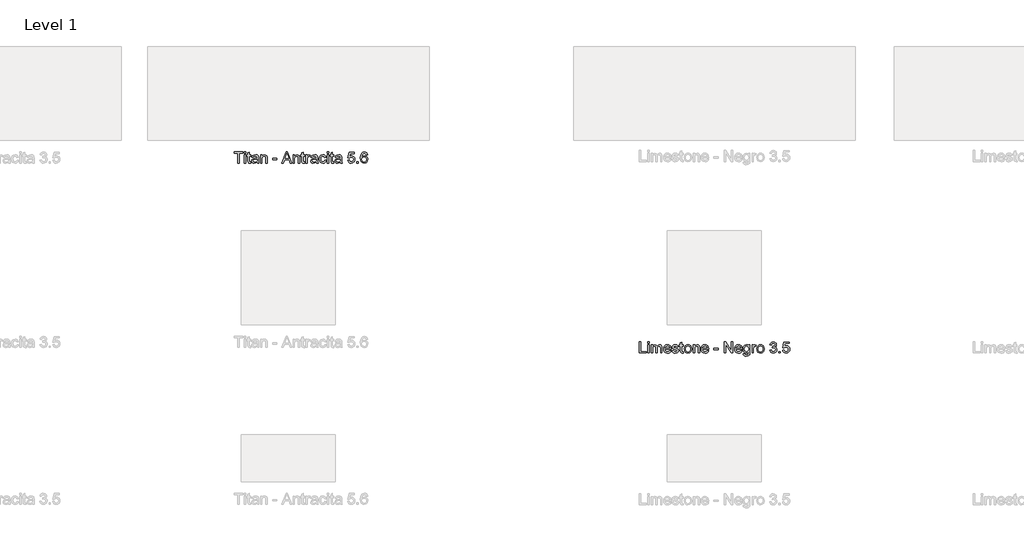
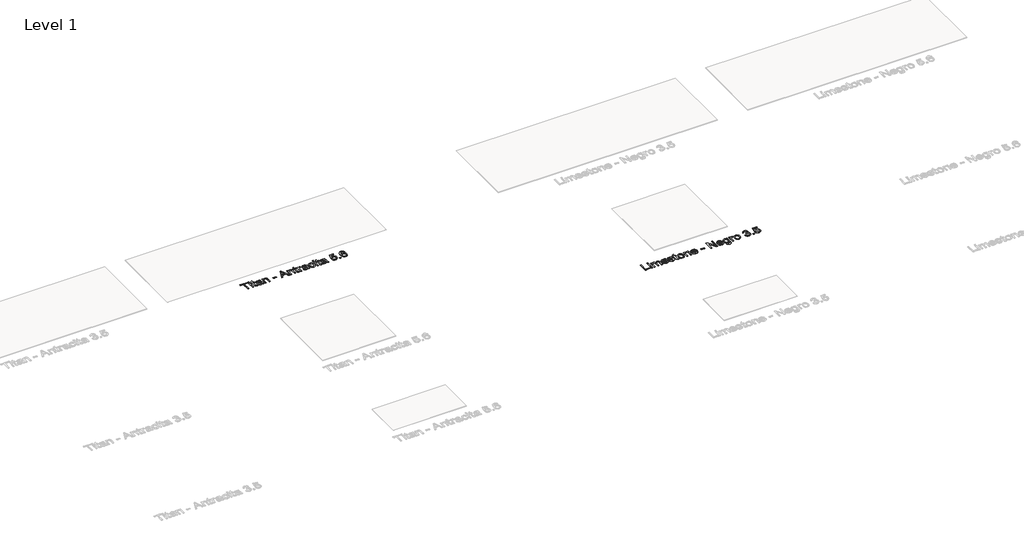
# One storey, part 10 of 80: 2 proxies.
"""IFC4 building model written with IfcOpenShell, lengths in millimetres."""

from ifc_helpers import new_model, si_unit, origin, origin_with_axes, place, context, project, spatial, polyline, outline, extrude, element, save

model = new_model("IFC4")

# Units and contexts
model_context = context("Model", 3, world=origin())
ifc_project = project(units=[si_unit("LENGTHUNIT", "METRE", prefix="MILLI")], contexts=[model_context])

# Site, building, storey
site = spatial("IfcSite", under=ifc_project)
building = spatial("IfcBuilding", under=site)
storey = spatial("IfcBuildingStorey", under=building, Name="Level 1", Elevation=0.0)

# Proxies
placement = place(None, origin())
element("IfcBuildingElementProxy", 1, Name="24\" Arial", ObjectType="24\" Arial", at=placement, inside=storey, context=model_context, shape_type="SweptSolid", body=[
    extrude(outline(polyline([(-7662.7684156, -16671.3584739), (-7662.7684156, -16567.9738585), (-7701.5376464, -16567.9738585), (-7701.5376464, -16553.2046277), (-7609.2299541, -16553.2046277), (-7609.2299541, -16567.9738585), (-7647.9991848, -16567.9738585), (-7647.9991848, -16671.3584739), (-7662.7684156, -16671.3584739)])), origin_with_axes(), (0.0, 0.0, 1.0), 2.0),
    extrude(outline(polyline([(-7594.4607233, -16671.3584739), (-7594.4607233, -16584.5892431), (-7579.6914925, -16584.5892431), (-7579.6914925, -16671.3584739), (-7594.4607233, -16671.3584739)])), origin_with_axes(), (0.0, 0.0, 1.0), 2.0),
    extrude(outline(polyline([(-7594.4607233, -16567.9738585), (-7594.4607233, -16553.2046277), (-7579.6914925, -16553.2046277), (-7579.6914925, -16567.9738585), (-7594.4607233, -16567.9738585)])), origin_with_axes(), (0.0, 0.0, 1.0), 2.0),
    extrude(outline(polyline([(-7526.153031, -16659.0411662), (-7524.3068771, -16671.7911662), (-7535.3549541, -16673.2046277), (-7547.7299541, -16670.7527046), (-7553.903031, -16664.3200123), (-7555.6914925, -16647.560397), (-7555.6914925, -16599.3584739), (-7566.7684156, -16599.3584739), (-7566.7684156, -16584.5892431), (-7555.6914925, -16584.5892431), (-7555.6914925, -16563.5027046), (-7540.9222617, -16554.8200123), (-7540.9222617, -16584.5892431), (-7526.153031, -16584.5892431), (-7526.153031, -16599.3584739), (-7540.9222617, -16599.3584739), (-7540.9222617, -16647.1277046), (-7540.1434156, -16654.7430893), (-7537.6193771, -16657.4402046), (-7532.5857233, -16658.435397), (-7526.153031, -16659.0411662)])), origin_with_axes(), (0.0, 0.0, 1.0), 2.0),
    extrude(outline(polyline([(-7455.9991848, -16660.2815508), (-7470.3213002, -16670.2911662), (-7486.1434156, -16673.2046277), (-7498.4859637, -16671.4522239), (-7507.590531, -16666.1950123), (-7513.2047137, -16658.2118393), (-7515.0761079, -16648.2815508), (-7512.2491848, -16636.5988585), (-7504.8213002, -16628.1180893), (-7494.4799541, -16623.2719354), (-7481.7011079, -16621.0507816), (-7456.0857233, -16615.9738585), (-7455.9991848, -16612.685397), (-7460.0664925, -16601.7815508), (-7476.3934156, -16597.51232), (-7491.3357233, -16600.3536662), (-7498.4607233, -16610.435397), (-7513.2299541, -16608.5892431), (-7506.840531, -16594.1661662), (-7493.9751464, -16585.7142431), (-7474.4895694, -16582.7430893), (-7456.590531, -16585.3680893), (-7446.4799541, -16591.9594354), (-7441.9511079, -16601.9834739), (-7441.2299541, -16614.9065508), (-7441.2299541, -16633.2815508), (-7440.4799541, -16658.9402046), (-7437.5376464, -16671.3584739), (-7452.3068771, -16671.3584739), (-7455.9991848, -16660.2815508)]), holes=[polyline([(-7455.9991848, -16630.7430893), (-7479.8261079, -16635.2719354), (-7492.5328387, -16637.6661662), (-7498.2876464, -16641.560397), (-7500.3068771, -16647.2430893), (-7495.9078387, -16655.2334739), (-7482.9991848, -16658.435397), (-7468.0568771, -16654.9017431), (-7458.4222617, -16646.3488585), (-7456.0857233, -16634.9257816), (-7455.9991848, -16630.7430893)])]), origin_with_axes(), (0.0, 0.0, 1.0), 2.0),
    extrude(outline(polyline([(-7420.9222617, -16671.3584739), (-7420.9222617, -16584.5892431), (-7406.153031, -16584.5892431), (-7406.153031, -16596.7046277), (-7394.8597617, -16586.2334739), (-7379.4414925, -16582.7430893), (-7365.4943771, -16585.5555893), (-7355.9751464, -16592.9402046), (-7351.5472617, -16603.8007816), (-7350.7684156, -16618.0796277), (-7350.7684156, -16671.3584739), (-7365.5376464, -16671.3584739), (-7365.5376464, -16620.0700123), (-7367.2395694, -16607.0027046), (-7373.2539925, -16600.0940508), (-7383.3934156, -16597.51232), (-7399.4174541, -16603.310397), (-7404.4691367, -16611.7118393), (-7406.153031, -16625.3200123), (-7406.153031, -16671.3584739), (-7420.9222617, -16671.3584739)])), origin_with_axes(), (0.0, 0.0, 1.0), 2.0),
    extrude(outline(polyline([(-7291.6914925, -16636.2815508), (-7291.6914925, -16621.51232), (-7245.5376464, -16621.51232), (-7245.5376464, -16636.2815508), (-7291.6914925, -16636.2815508)])), origin_with_axes(), (0.0, 0.0, 1.0), 2.0),
    extrude(outline(polyline([(-7194.6818771, -16671.3584739), (-7147.5184156, -16553.2046277), (-7134.9414925, -16553.2046277), (-7087.778031, -16671.3584739), (-7103.3838002, -16671.3584739), (-7116.9126464, -16634.435397), (-7165.5761079, -16634.435397), (-7179.0761079, -16671.3584739), (-7194.6818771, -16671.3584739)]), holes=[polyline([(-7160.153031, -16619.6661662), (-7122.3068771, -16619.6661662), (-7132.9511079, -16590.6180893), (-7141.2299541, -16567.9738585), (-7148.5857233, -16588.0796277), (-7160.153031, -16619.6661662)])]), origin_with_axes(), (0.0, 0.0, 1.0), 2.0),
    extrude(outline(polyline([(-7073.8453387, -16671.3584739), (-7073.8453387, -16584.5892431), (-7059.0761079, -16584.5892431), (-7059.0761079, -16596.7046277), (-7047.7828387, -16586.2334739), (-7032.3645694, -16582.7430893), (-7018.4174541, -16585.5555893), (-7008.8982233, -16592.9402046), (-7004.4703387, -16603.8007816), (-7003.6914925, -16618.0796277), (-7003.6914925, -16671.3584739), (-7018.4607233, -16671.3584739), (-7018.4607233, -16620.0700123), (-7020.1626464, -16607.0027046), (-7026.1770694, -16600.0940508), (-7036.3164925, -16597.51232), (-7052.340531, -16603.310397), (-7057.3922137, -16611.7118393), (-7059.0761079, -16625.3200123), (-7059.0761079, -16671.3584739), (-7073.8453387, -16671.3584739)])), origin_with_axes(), (0.0, 0.0, 1.0), 2.0),
    extrude(outline(polyline([(-6951.9991848, -16659.0411662), (-6950.153031, -16671.7911662), (-6961.2011079, -16673.2046277), (-6973.5761079, -16670.7527046), (-6979.7491848, -16664.3200123), (-6981.5376464, -16647.560397), (-6981.5376464, -16599.3584739), (-6992.6145694, -16599.3584739), (-6992.6145694, -16584.5892431), (-6981.5376464, -16584.5892431), (-6981.5376464, -16563.5027046), (-6966.7684156, -16554.8200123), (-6966.7684156, -16584.5892431), (-6951.9991848, -16584.5892431), (-6951.9991848, -16599.3584739), (-6966.7684156, -16599.3584739), (-6966.7684156, -16647.1277046), (-6965.9895694, -16654.7430893), (-6963.465531, -16657.4402046), (-6958.4318771, -16658.435397), (-6951.9991848, -16659.0411662)])), origin_with_axes(), (0.0, 0.0, 1.0), 2.0),
    extrude(outline(polyline([(-6937.2299541, -16671.3584739), (-6937.2299541, -16584.5892431), (-6924.3068771, -16584.5892431), (-6924.3068771, -16597.4257816), (-6915.1338002, -16585.5988585), (-6905.903031, -16582.7430893), (-6891.0761079, -16587.3007816), (-6896.0088002, -16600.5411662), (-6906.3934156, -16597.51232), (-6914.7443771, -16600.4257816), (-6920.0664925, -16608.5027046), (-6922.4607233, -16625.7527046), (-6922.4607233, -16671.3584739), (-6937.2299541, -16671.3584739)])), origin_with_axes(), (0.0, 0.0, 1.0), 2.0),
    extrude(outline(polyline([(-6826.4607233, -16660.2815508), (-6840.7828387, -16670.2911662), (-6856.6049541, -16673.2046277), (-6868.9475021, -16671.4522239), (-6878.0520694, -16666.1950123), (-6883.6662521, -16658.2118393), (-6885.5376464, -16648.2815508), (-6882.7107233, -16636.5988585), (-6875.2828387, -16628.1180893), (-6864.9414925, -16623.2719354), (-6852.1626464, -16621.0507816), (-6826.5472617, -16615.9738585), (-6826.4607233, -16612.685397), (-6830.528031, -16601.7815508), (-6846.8549541, -16597.51232), (-6861.7972617, -16600.3536662), (-6868.9222617, -16610.435397), (-6883.6914925, -16608.5892431), (-6877.3020694, -16594.1661662), (-6864.4366848, -16585.7142431), (-6844.9511079, -16582.7430893), (-6827.0520694, -16585.3680893), (-6816.9414925, -16591.9594354), (-6812.4126464, -16601.9834739), (-6811.6914925, -16614.9065508), (-6811.6914925, -16633.2815508), (-6810.9414925, -16658.9402046), (-6807.9991848, -16671.3584739), (-6822.7684156, -16671.3584739), (-6826.4607233, -16660.2815508)]), holes=[polyline([(-6826.4607233, -16630.7430893), (-6850.2876464, -16635.2719354), (-6862.9943771, -16637.6661662), (-6868.7491848, -16641.560397), (-6870.7684156, -16647.2430893), (-6866.3693771, -16655.2334739), (-6853.4607233, -16658.435397), (-6838.5184156, -16654.9017431), (-6828.8838002, -16646.3488585), (-6826.5472617, -16634.9257816), (-6826.4607233, -16630.7430893)])]), origin_with_axes(), (0.0, 0.0, 1.0), 2.0),
    extrude(outline(polyline([(-6735.9991848, -16639.9738585), (-6721.2299541, -16641.8200123), (-6725.3477425, -16654.9558296), (-6733.0857233, -16664.8825123), (-6743.715531, -16671.1240989), (-6756.5088002, -16673.2046277), (-6772.2191367, -16670.3019835), (-6784.5039925, -16661.5940508), (-6792.4330791, -16647.4630412), (-6795.0761079, -16628.2911662), (-6790.5616848, -16603.7575123), (-6784.8645694, -16594.559195), (-6776.8020694, -16587.9930893), (-6756.7107233, -16582.7430893), (-6744.231156, -16584.5459739), (-6734.2539925, -16589.9546277), (-6727.0965406, -16598.6805893), (-6723.0761079, -16610.435397), (-6737.8453387, -16612.2815508), (-6744.6963002, -16601.2190508), (-6756.5953387, -16597.51232), (-6766.1398098, -16599.3368393), (-6773.715531, -16604.810397), (-6778.6590406, -16614.2286662), (-6780.3068771, -16627.88732), (-6778.6950983, -16641.7298681), (-6773.8597617, -16651.1805893), (-6766.4210598, -16656.621695), (-6756.9991848, -16658.435397), (-6743.0809156, -16653.9065508), (-6735.9991848, -16639.9738585)])), origin_with_axes(), (0.0, 0.0, 1.0), 2.0),
    extrude(outline(polyline([(-6708.3068771, -16671.3584739), (-6708.3068771, -16584.5892431), (-6693.5376464, -16584.5892431), (-6693.5376464, -16671.3584739), (-6708.3068771, -16671.3584739)])), origin_with_axes(), (0.0, 0.0, 1.0), 2.0),
    extrude(outline(polyline([(-6708.3068771, -16567.9738585), (-6708.3068771, -16553.2046277), (-6693.5376464, -16553.2046277), (-6693.5376464, -16567.9738585), (-6708.3068771, -16567.9738585)])), origin_with_axes(), (0.0, 0.0, 1.0), 2.0),
    extrude(outline(polyline([(-6639.9991848, -16659.0411662), (-6638.153031, -16671.7911662), (-6649.2011079, -16673.2046277), (-6661.5761079, -16670.7527046), (-6667.7491848, -16664.3200123), (-6669.5376464, -16647.560397), (-6669.5376464, -16599.3584739), (-6680.6145694, -16599.3584739), (-6680.6145694, -16584.5892431), (-6669.5376464, -16584.5892431), (-6669.5376464, -16563.5027046), (-6654.7684156, -16554.8200123), (-6654.7684156, -16584.5892431), (-6639.9991848, -16584.5892431), (-6639.9991848, -16599.3584739), (-6654.7684156, -16599.3584739), (-6654.7684156, -16647.1277046), (-6653.9895694, -16654.7430893), (-6651.465531, -16657.4402046), (-6646.4318771, -16658.435397), (-6639.9991848, -16659.0411662)])), origin_with_axes(), (0.0, 0.0, 1.0), 2.0),
    extrude(outline(polyline([(-6569.8453387, -16660.2815508), (-6584.1674541, -16670.2911662), (-6599.9895694, -16673.2046277), (-6612.3321175, -16671.4522239), (-6621.4366848, -16666.1950123), (-6627.0508675, -16658.2118393), (-6628.9222617, -16648.2815508), (-6626.0953387, -16636.5988585), (-6618.6674541, -16628.1180893), (-6608.3261079, -16623.2719354), (-6595.5472617, -16621.0507816), (-6569.9318771, -16615.9738585), (-6569.8453387, -16612.685397), (-6573.9126464, -16601.7815508), (-6590.2395694, -16597.51232), (-6605.1818771, -16600.3536662), (-6612.3068771, -16610.435397), (-6627.0761079, -16608.5892431), (-6620.6866848, -16594.1661662), (-6607.8213002, -16585.7142431), (-6588.3357233, -16582.7430893), (-6570.4366848, -16585.3680893), (-6560.3261079, -16591.9594354), (-6555.7972617, -16601.9834739), (-6555.0761079, -16614.9065508), (-6555.0761079, -16633.2815508), (-6554.3261079, -16658.9402046), (-6551.3838002, -16671.3584739), (-6566.153031, -16671.3584739), (-6569.8453387, -16660.2815508)]), holes=[polyline([(-6569.8453387, -16630.7430893), (-6593.6722617, -16635.2719354), (-6606.3789925, -16637.6661662), (-6612.1338002, -16641.560397), (-6614.153031, -16647.2430893), (-6609.7539925, -16655.2334739), (-6596.8453387, -16658.435397), (-6581.903031, -16654.9017431), (-6572.2684156, -16646.3488585), (-6569.9318771, -16634.9257816), (-6569.8453387, -16630.7430893)])]), origin_with_axes(), (0.0, 0.0, 1.0), 2.0),
    extrude(outline(polyline([(-6492.3068771, -16639.9738585), (-6477.5376464, -16638.1277046), (-6470.0953387, -16653.3440508), (-6454.6626464, -16658.435397), (-6444.0761079, -16656.6649643), (-6436.1434156, -16651.3536662), (-6431.1890887, -16643.1144835), (-6429.5376464, -16632.560397), (-6431.0845214, -16622.622897), (-6435.7251464, -16615.0219354), (-6443.4955791, -16610.1974162), (-6454.4318771, -16608.5892431), (-6467.3982233, -16611.1565508), (-6475.6914925, -16617.8200123), (-6490.4607233, -16615.9738585), (-6477.5376464, -16555.0507816), (-6420.3068771, -16555.0507816), (-6420.3068771, -16569.8200123), (-6465.5953387, -16569.8200123), (-6471.9126464, -16602.3584739), (-6461.3621656, -16595.9546277), (-6450.3068771, -16593.8200123), (-6436.5075983, -16596.466647), (-6425.0520694, -16604.4065508), (-6417.3393291, -16616.5075123), (-6414.7684156, -16631.63732), (-6417.0833194, -16646.4065508), (-6424.028031, -16659.0411662), (-6437.3261079, -16669.6637623), (-6454.7203387, -16673.2046277), (-6469.2263483, -16670.9293873), (-6480.7828387, -16664.1036662), (-6488.7047137, -16653.5207335), (-6492.3068771, -16639.9738585)])), origin_with_axes(), (0.0, 0.0, 1.0), 2.0),
    extrude(outline(polyline([(-6394.4607233, -16671.3584739), (-6394.4607233, -16656.5892431), (-6379.6914925, -16656.5892431), (-6379.6914925, -16671.3584739), (-6394.4607233, -16671.3584739)])), origin_with_axes(), (0.0, 0.0, 1.0), 2.0),
    extrude(outline(polyline([(-6279.9991848, -16584.5892431), (-6294.7684156, -16586.435397), (-6300.3645694, -16574.1180893), (-6307.0640887, -16569.5099162), (-6315.1626464, -16567.9738585), (-6328.4895694, -16571.5507816), (-6338.5713002, -16584.9786662), (-6342.7684156, -16611.3007816), (-6329.7443771, -16599.5171277), (-6313.6049541, -16595.6661662), (-6299.9607233, -16598.2983777), (-6288.5088002, -16606.1950123), (-6280.7419733, -16618.2599162), (-6278.153031, -16633.3969354), (-6283.028031, -16653.7767431), (-6296.4414925, -16668.19982), (-6315.7972617, -16673.2046277), (-6332.5532714, -16669.88732), (-6345.8982233, -16659.935397), (-6354.6277906, -16642.3680893), (-6357.5376464, -16616.2046277), (-6354.3068771, -16586.7887623), (-6344.6145694, -16566.6757816), (-6331.3813964, -16556.5724162), (-6314.2395694, -16553.2046277), (-6301.2804348, -16555.2887623), (-6290.903031, -16561.5411662), (-6283.6338002, -16571.4714546), (-6279.9991848, -16584.5892431)]), holes=[polyline([(-6342.7684156, -16633.1661662), (-6339.3501464, -16645.9594354), (-6330.2636079, -16655.247897), (-6316.9511079, -16658.435397), (-6307.2047137, -16656.7839546), (-6299.5424541, -16651.8296277), (-6294.5773098, -16644.0411662), (-6292.9222617, -16633.88732), (-6294.5556752, -16624.1409258), (-6299.4559156, -16616.7094354), (-6307.2479829, -16612.0039066), (-6317.5568771, -16610.435397), (-6327.2888483, -16612.0039066), (-6335.4270694, -16616.7094354), (-6340.9330791, -16623.9606373), (-6342.7684156, -16633.1661662)])]), origin_with_axes(), (0.0, 0.0, 1.0), 2.0),
])
element("IfcBuildingElementProxy", 2, Name="24\" Arial", ObjectType="24\" Arial", at=placement, inside=storey, context=model_context, shape_type="SweptSolid", body=[
    extrude(outline(polyline([(-3383.0761079, -18695.513613), (-3383.0761079, -18577.3597669), (-3368.3068771, -18577.3597669), (-3368.3068771, -18680.7443823), (-3309.2299541, -18680.7443823), (-3309.2299541, -18695.513613), (-3383.0761079, -18695.513613)])), origin_with_axes(), (0.0, 0.0, 1.0), 2.0),
    extrude(outline(polyline([(-3294.4607233, -18592.1289977), (-3294.4607233, -18577.3597669), (-3279.6914925, -18577.3597669), (-3279.6914925, -18592.1289977), (-3294.4607233, -18592.1289977)])), origin_with_axes(), (0.0, 0.0, 1.0), 2.0),
    extrude(outline(polyline([(-3294.4607233, -18695.513613), (-3294.4607233, -18608.7443823), (-3279.6914925, -18608.7443823), (-3279.6914925, -18695.513613), (-3294.4607233, -18695.513613)])), origin_with_axes(), (0.0, 0.0, 1.0), 2.0),
    extrude(outline(polyline([(-3257.5376464, -18695.513613), (-3257.5376464, -18608.7443823), (-3242.7684156, -18608.7443823), (-3242.7684156, -18623.0232284), (-3232.6145694, -18611.326113), (-3218.1626464, -18606.8982284), (-3203.3645694, -18611.4126515), (-3195.2299541, -18624.06169), (-3183.7059156, -18611.1890938), (-3169.153031, -18606.8982284), (-3158.0508675, -18608.6830842), (-3149.840531, -18614.0376515), (-3144.7672137, -18623.1061611), (-3143.0761079, -18636.0328438), (-3143.0761079, -18695.513613), (-3157.8453387, -18695.513613), (-3157.8453387, -18642.3789977), (-3159.215531, -18630.0472669), (-3164.1770694, -18623.9751515), (-3172.6145694, -18621.6674592), (-3180.6157714, -18623.1458246), (-3187.1386079, -18627.5809207), (-3191.4763483, -18635.2756323), (-3192.9222617, -18646.5328438), (-3192.9222617, -18695.513613), (-3207.6914925, -18695.513613), (-3207.6914925, -18640.7347669), (-3211.1097617, -18626.4270746), (-3222.3164925, -18621.6674592), (-3233.2491848, -18624.8405361), (-3240.5184156, -18634.1289977), (-3242.7684156, -18651.7539977), (-3242.7684156, -18695.513613), (-3257.5376464, -18695.513613)])), origin_with_axes(), (0.0, 0.0, 1.0), 2.0),
    extrude(outline(polyline([(-3060.1722617, -18669.6674592), (-3045.6914925, -18671.513613), (-3050.9090406, -18682.4246707), (-3059.2347617, -18690.5809207), (-3070.481156, -18695.6650553), (-3084.4607233, -18697.3597669), (-3101.7900502, -18694.435488), (-3115.1241848, -18685.6626515), (-3123.6265887, -18671.6109688), (-3126.4607233, -18652.8501515), (-3123.5977425, -18633.4583246), (-3115.0088002, -18618.9559207), (-3101.8549541, -18609.9126515), (-3085.2972617, -18606.8982284), (-3069.2551944, -18609.90544), (-3056.4366848, -18618.9270746), (-3048.0316367, -18633.4006323), (-3045.2299541, -18652.763613), (-3045.3164925, -18656.7443823), (-3111.6914925, -18656.7443823), (-3109.1350021, -18667.7996707), (-3103.1963002, -18675.9270746), (-3094.6253867, -18680.9246707), (-3084.1722617, -18682.5905361), (-3069.6914925, -18679.5039977), (-3060.1722617, -18669.6674592)]), holes=[polyline([(-3111.6914925, -18641.9751515), (-3059.9991848, -18641.9751515), (-3065.9126464, -18628.5905361), (-3074.5232233, -18623.3982284), (-3085.3549541, -18621.6674592), (-3103.5424541, -18627.1914977), (-3109.2648098, -18633.6494303), (-3111.6914925, -18641.9751515)])]), origin_with_axes(), (0.0, 0.0, 1.0), 2.0),
    extrude(outline(polyline([(-3035.9991848, -18669.6674592), (-3021.2299541, -18667.8213053), (-3014.3934156, -18678.7828438), (-2998.7299541, -18682.5905361), (-2983.6722617, -18679.1001515), (-2978.7684156, -18670.9078438), (-2983.7011079, -18664.2732284), (-2998.903031, -18660.06169), (-3021.1434156, -18652.8357284), (-3030.8501464, -18644.3982284), (-3034.153031, -18632.4847669), (-3031.4991848, -18621.4799592), (-3024.2588002, -18613.0713053), (-3014.8693771, -18608.701113), (-3002.1626464, -18606.8982284), (-2984.1914925, -18609.7972669), (-2972.7684156, -18617.6434207), (-2967.6914925, -18630.8982284), (-2982.4607233, -18632.7443823), (-2988.0136079, -18624.5953438), (-3001.0088002, -18621.6674592), (-3015.1434156, -18624.4655361), (-3019.3838002, -18630.9847669), (-3017.6241848, -18635.2828438), (-3012.1145694, -18638.5424592), (-2999.3934156, -18641.68669), (-2977.715531, -18648.638613), (-2967.6482233, -18656.513613), (-2963.9991848, -18669.3501515), (-2968.2828387, -18683.4847669), (-2980.6434156, -18693.7395746), (-2998.9318771, -18697.3597669), (-3013.8237041, -18695.6145746), (-3024.6914925, -18690.3789977), (-3031.9463002, -18681.7107284), (-3035.9991848, -18669.6674592)])), origin_with_axes(), (0.0, 0.0, 1.0), 2.0),
    extrude(outline(polyline([(-2915.9991848, -18683.1963053), (-2914.153031, -18695.9463053), (-2925.2011079, -18697.3597669), (-2937.5761079, -18694.9078438), (-2943.7491848, -18688.4751515), (-2945.5376464, -18671.7155361), (-2945.5376464, -18623.513613), (-2956.6145694, -18623.513613), (-2956.6145694, -18608.7443823), (-2945.5376464, -18608.7443823), (-2945.5376464, -18587.6578438), (-2930.7684156, -18578.9751515), (-2930.7684156, -18608.7443823), (-2915.9991848, -18608.7443823), (-2915.9991848, -18623.513613), (-2930.7684156, -18623.513613), (-2930.7684156, -18671.2828438), (-2929.9895694, -18678.8982284), (-2927.465531, -18681.5953438), (-2922.4318771, -18682.5905361), (-2915.9991848, -18683.1963053)])), origin_with_axes(), (0.0, 0.0, 1.0), 2.0),
    extrude(outline(polyline([(-2904.9222617, -18652.1289977), (-2901.7275502, -18631.2083246), (-2892.1434156, -18616.5039977), (-2880.3020694, -18609.2996707), (-2866.1241848, -18606.8982284), (-2850.6085598, -18609.8225073), (-2838.215531, -18618.5953438), (-2830.0917329, -18632.5244303), (-2827.3838002, -18650.9174592), (-2832.1722617, -18677.1963053), (-2846.1193771, -18692.0664977), (-2866.1241848, -18697.3597669), (-2881.8273098, -18694.4463053), (-2894.2059156, -18685.7059207), (-2902.2431752, -18671.4847669), (-2904.9222617, -18652.1289977)]), holes=[polyline([(-2890.153031, -18652.1001515), (-2888.4438964, -18665.466738), (-2883.3164925, -18674.9895746), (-2875.6001464, -18680.6902957), (-2866.1241848, -18682.5905361), (-2856.6914925, -18680.6794784), (-2848.9895694, -18674.9463053), (-2843.8621656, -18665.2972669), (-2842.153031, -18651.638613), (-2843.8729829, -18638.6614496), (-2849.0328387, -18629.2684207), (-2856.7455791, -18623.5676996), (-2866.1241848, -18621.6674592), (-2875.6001464, -18623.560488), (-2883.3164925, -18629.2395746), (-2888.4438964, -18638.7407765), (-2890.153031, -18652.1001515)])]), origin_with_axes(), (0.0, 0.0, 1.0), 2.0),
    extrude(outline(polyline([(-2810.7684156, -18695.513613), (-2810.7684156, -18608.7443823), (-2795.9991848, -18608.7443823), (-2795.9991848, -18620.8597669), (-2784.7059156, -18610.388613), (-2769.2876464, -18606.8982284), (-2755.340531, -18609.7107284), (-2745.8213002, -18617.0953438), (-2741.3934156, -18627.9559207), (-2740.6145694, -18642.2347669), (-2740.6145694, -18695.513613), (-2755.3838002, -18695.513613), (-2755.3838002, -18644.2251515), (-2757.0857233, -18631.1578438), (-2763.1001464, -18624.24919), (-2773.2395694, -18621.6674592), (-2789.2636079, -18627.4655361), (-2794.3152906, -18635.8669784), (-2795.9991848, -18649.4751515), (-2795.9991848, -18695.513613), (-2810.7684156, -18695.513613)])), origin_with_axes(), (0.0, 0.0, 1.0), 2.0),
    extrude(outline(polyline([(-2659.5568771, -18669.6674592), (-2645.0761079, -18671.513613), (-2650.293656, -18682.4246707), (-2658.6193771, -18690.5809207), (-2669.8657714, -18695.6650553), (-2683.8453387, -18697.3597669), (-2701.1746656, -18694.435488), (-2714.5088002, -18685.6626515), (-2723.0112041, -18671.6109688), (-2725.8453387, -18652.8501515), (-2722.9823579, -18633.4583246), (-2714.3934156, -18618.9559207), (-2701.2395694, -18609.9126515), (-2684.6818771, -18606.8982284), (-2668.6398098, -18609.90544), (-2655.8213002, -18618.9270746), (-2647.4162521, -18633.4006323), (-2644.6145694, -18652.763613), (-2644.7011079, -18656.7443823), (-2711.0761079, -18656.7443823), (-2708.5196175, -18667.7996707), (-2702.5809156, -18675.9270746), (-2694.0100021, -18680.9246707), (-2683.5568771, -18682.5905361), (-2669.0761079, -18679.5039977), (-2659.5568771, -18669.6674592)]), holes=[polyline([(-2711.0761079, -18641.9751515), (-2659.3838002, -18641.9751515), (-2665.2972617, -18628.5905361), (-2673.9078387, -18623.3982284), (-2684.7395694, -18621.6674592), (-2702.9270694, -18627.1914977), (-2708.6494252, -18633.6494303), (-2711.0761079, -18641.9751515)])]), origin_with_axes(), (0.0, 0.0, 1.0), 2.0),
    extrude(outline(polyline([(-2591.0761079, -18660.43669), (-2591.0761079, -18645.6674592), (-2544.9222617, -18645.6674592), (-2544.9222617, -18660.43669), (-2591.0761079, -18660.43669)])), origin_with_axes(), (0.0, 0.0, 1.0), 2.0),
    extrude(outline(polyline([(-2480.3068771, -18695.513613), (-2480.3068771, -18577.3597669), (-2464.4991848, -18577.3597669), (-2402.7684156, -18670.9655361), (-2402.7684156, -18577.3597669), (-2387.9991848, -18577.3597669), (-2387.9991848, -18695.513613), (-2403.8068771, -18695.513613), (-2465.5376464, -18601.8789977), (-2465.5376464, -18695.513613), (-2480.3068771, -18695.513613)])), origin_with_axes(), (0.0, 0.0, 1.0), 2.0),
    extrude(outline(polyline([(-2303.2491848, -18669.6674592), (-2288.7684156, -18671.513613), (-2293.9859637, -18682.4246707), (-2302.3116848, -18690.5809207), (-2313.5580791, -18695.6650553), (-2327.5376464, -18697.3597669), (-2344.8669733, -18694.435488), (-2358.2011079, -18685.6626515), (-2366.7035117, -18671.6109688), (-2369.5376464, -18652.8501515), (-2366.6746656, -18633.4583246), (-2358.0857233, -18618.9559207), (-2344.9318771, -18609.9126515), (-2328.3741848, -18606.8982284), (-2312.3321175, -18609.90544), (-2299.5136079, -18618.9270746), (-2291.1085598, -18633.4006323), (-2288.3068771, -18652.763613), (-2288.3934156, -18656.7443823), (-2354.7684156, -18656.7443823), (-2352.2119252, -18667.7996707), (-2346.2732233, -18675.9270746), (-2337.7023098, -18680.9246707), (-2327.2491848, -18682.5905361), (-2312.7684156, -18679.5039977), (-2303.2491848, -18669.6674592)]), holes=[polyline([(-2354.7684156, -18641.9751515), (-2303.0761079, -18641.9751515), (-2308.9895694, -18628.5905361), (-2317.6001464, -18623.3982284), (-2328.4318771, -18621.6674592), (-2346.6193771, -18627.1914977), (-2352.3417329, -18633.6494303), (-2354.7684156, -18641.9751515)])]), origin_with_axes(), (0.0, 0.0, 1.0), 2.0),
    extrude(outline(polyline([(-2277.2299541, -18702.8982284), (-2262.4607233, -18704.7443823), (-2257.6722617, -18712.5328438), (-2243.3357233, -18715.8213053), (-2228.2203387, -18712.1001515), (-2221.0088002, -18701.6578438), (-2219.9991848, -18684.43669), (-2230.3982233, -18692.7443823), (-2243.0761079, -18695.513613), (-2258.3032714, -18692.2900553), (-2269.6578387, -18682.6193823), (-2276.7215406, -18668.4414977), (-2279.0761079, -18651.6963053), (-2274.8501464, -18628.8068823), (-2262.6193771, -18612.6097669), (-2243.7972617, -18606.8982284), (-2230.621781, -18610.1289977), (-2219.9991848, -18619.8213053), (-2219.9991848, -18608.7443823), (-2205.2299541, -18608.7443823), (-2205.2299541, -18683.6578438), (-2209.2684156, -18712.3453438), (-2222.0616848, -18725.68669), (-2243.6241848, -18730.5905361), (-2257.3657714, -18728.8633727), (-2268.1866848, -18723.6818823), (-2275.1277906, -18715.0316419), (-2277.2299541, -18702.8982284)]), holes=[polyline([(-2264.3068771, -18650.68669), (-2262.731156, -18664.233565), (-2258.0039925, -18673.5472669), (-2250.8970214, -18678.9451034), (-2242.1818771, -18680.7443823), (-2233.5316367, -18678.9559207), (-2226.3886079, -18673.5905361), (-2221.5965406, -18664.3958246), (-2219.9991848, -18651.1193823), (-2221.6434156, -18638.3152957), (-2226.5761079, -18629.0953438), (-2233.8237041, -18623.5244303), (-2242.4126464, -18621.6674592), (-2250.8465406, -18623.4955842), (-2257.9174541, -18628.9799592), (-2262.7095214, -18638.0628919), (-2264.3068771, -18650.68669)])]), origin_with_axes(), (0.0, 0.0, 1.0), 2.0),
    extrude(outline(polyline([(-2183.0761079, -18695.513613), (-2183.0761079, -18608.7443823), (-2170.153031, -18608.7443823), (-2170.153031, -18621.5809207), (-2160.9799541, -18609.7539977), (-2151.7491848, -18606.8982284), (-2136.9222617, -18611.4559207), (-2141.8549541, -18624.6963053), (-2152.2395694, -18621.6674592), (-2160.590531, -18624.5809207), (-2165.9126464, -18632.6578438), (-2168.3068771, -18649.9078438), (-2168.3068771, -18695.513613), (-2183.0761079, -18695.513613)])), origin_with_axes(), (0.0, 0.0, 1.0), 2.0),
    extrude(outline(polyline([(-2131.3838002, -18652.1289977), (-2128.1890887, -18631.2083246), (-2118.6049541, -18616.5039977), (-2106.7636079, -18609.2996707), (-2092.5857233, -18606.8982284), (-2077.0700983, -18609.8225073), (-2064.6770694, -18618.5953438), (-2056.5532714, -18632.5244303), (-2053.8453387, -18650.9174592), (-2058.6338002, -18677.1963053), (-2072.5809156, -18692.0664977), (-2092.5857233, -18697.3597669), (-2108.2888483, -18694.4463053), (-2120.6674541, -18685.7059207), (-2128.7047137, -18671.4847669), (-2131.3838002, -18652.1289977)]), holes=[polyline([(-2116.6145694, -18652.1001515), (-2114.9054348, -18665.466738), (-2109.778031, -18674.9895746), (-2102.0616848, -18680.6902957), (-2092.5857233, -18682.5905361), (-2083.153031, -18680.6794784), (-2075.4511079, -18674.9463053), (-2070.3237041, -18665.2972669), (-2068.6145694, -18651.638613), (-2070.3345214, -18638.6614496), (-2075.4943771, -18629.2684207), (-2083.2071175, -18623.5676996), (-2092.5857233, -18621.6674592), (-2102.0616848, -18623.560488), (-2109.778031, -18629.2395746), (-2114.9054348, -18638.7407765), (-2116.6145694, -18652.1001515)])]), origin_with_axes(), (0.0, 0.0, 1.0), 2.0),
    extrude(outline(polyline([(-1994.7684156, -18664.1289977), (-1979.9991848, -18662.2828438), (-1971.8501464, -18677.8309207), (-1956.6049541, -18682.5905361), (-1946.4799541, -18680.9535169), (-1938.6626464, -18676.0424592), (-1933.6650502, -18668.7155361), (-1931.9991848, -18659.8309207), (-1933.6506271, -18651.3970265), (-1938.6049541, -18644.5568823), (-1946.1049541, -18640.0244303), (-1955.3934156, -18638.513613), (-1965.7491848, -18640.1289977), (-1964.1049541, -18625.3597669), (-1961.7395694, -18625.5328438), (-1944.9799541, -18621.2924592), (-1939.3982233, -18615.9126515), (-1937.5376464, -18608.2539977), (-1942.9318771, -18596.701113), (-1956.8357233, -18592.1289977), (-1970.9126464, -18596.7443823), (-1978.153031, -18610.5905361), (-1992.9222617, -18608.7443823), (-1988.5737041, -18595.482363), (-1980.8357233, -18585.5809207), (-1970.2491848, -18579.4150553), (-1957.3549541, -18577.3597669), (-1939.5424541, -18581.4126515), (-1927.0809156, -18592.4895746), (-1922.7684156, -18607.388613), (-1926.8645694, -18621.0039977), (-1938.9799541, -18630.7828438), (-1929.7347617, -18634.5184207), (-1922.8838002, -18640.8789977), (-1918.6434156, -18649.5184207), (-1917.2299541, -18660.0905361), (-1920.0568771, -18674.4847669), (-1928.5376464, -18686.513613), (-1941.3381271, -18694.6482284), (-1957.1241848, -18697.3597669), (-1971.403031, -18695.044863), (-1983.028031, -18688.1001515), (-1991.1121656, -18677.4775553), (-1994.7684156, -18664.1289977)])), origin_with_axes(), (0.0, 0.0, 1.0), 2.0),
    extrude(outline(polyline([(-1896.9222617, -18695.513613), (-1896.9222617, -18680.7443823), (-1882.153031, -18680.7443823), (-1882.153031, -18695.513613), (-1896.9222617, -18695.513613)])), origin_with_axes(), (0.0, 0.0, 1.0), 2.0),
    extrude(outline(polyline([(-1858.153031, -18664.1289977), (-1843.3838002, -18662.2828438), (-1835.9414925, -18677.49919), (-1820.5088002, -18682.5905361), (-1809.9222617, -18680.8201034), (-1801.9895694, -18675.5088053), (-1797.0352425, -18667.2696227), (-1795.3838002, -18656.7155361), (-1796.9306752, -18646.7780361), (-1801.5713002, -18639.1770746), (-1809.3417329, -18634.3525553), (-1820.278031, -18632.7443823), (-1833.2443771, -18635.31169), (-1841.5376464, -18641.9751515), (-1856.3068771, -18640.1289977), (-1843.3838002, -18579.2059207), (-1786.153031, -18579.2059207), (-1786.153031, -18593.9751515), (-1831.4414925, -18593.9751515), (-1837.7588002, -18626.513613), (-1827.2083194, -18620.1097669), (-1816.153031, -18617.9751515), (-1802.3537521, -18620.6217861), (-1790.8982233, -18628.56169), (-1783.1854829, -18640.6626515), (-1780.6145694, -18655.7924592), (-1782.9294733, -18670.56169), (-1789.8741848, -18683.1963053), (-1803.1722617, -18693.8189015), (-1820.5664925, -18697.3597669), (-1835.0725021, -18695.0845265), (-1846.6289925, -18688.2588053), (-1854.5508675, -18677.6758727), (-1858.153031, -18664.1289977)])), origin_with_axes(), (0.0, 0.0, 1.0), 2.0),
])

save(model, "model.ifc")
